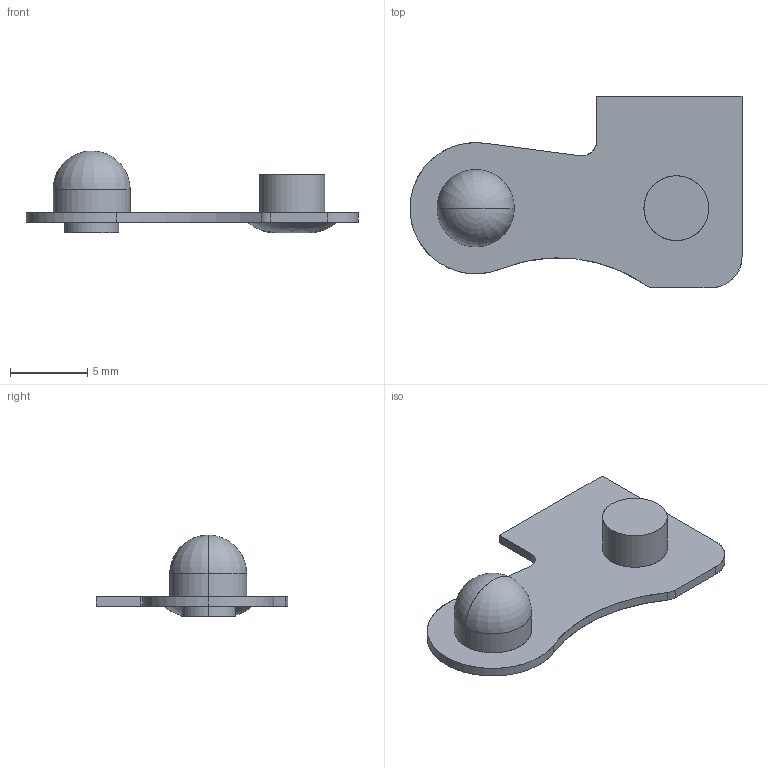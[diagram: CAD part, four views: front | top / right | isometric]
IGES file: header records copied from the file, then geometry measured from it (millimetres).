
Start section: SolidWorks IGES FILE using analytic representation for surfaces
Global section: file name: C:\WINNT\Profiles\cbrechard\Bureau\GE 51\29.910.10.IGS; native system: SolidWorks 2001Plus by SolidWorks Corporation; preprocessor: Version 5.3; author: CBRECHARD; date: 050125.135551; units: millimetre
Bounding box: 21.5 x 12.4 x 5.3 mm (x, y, z)
Surface area: 521.8 mm2 (no closed solid volume)
Topology: 0 solids, 0 shells, 26 faces, 402 edges, 400 vertices
Faces by surface type: revolution 14, bspline 12
